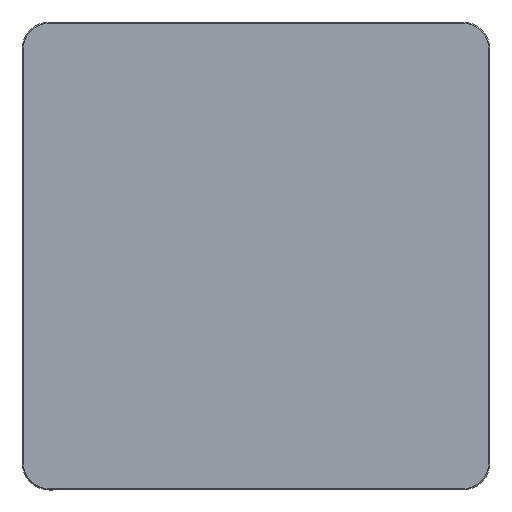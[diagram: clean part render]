
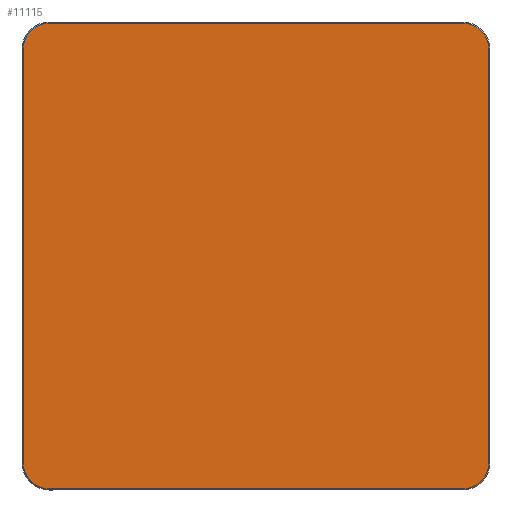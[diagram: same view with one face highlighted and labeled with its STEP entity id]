
A CAD part, top view. The second image highlights one B-rep face of the part: STEP entity #11115.
In plain terms, the highlighted planar face has unit normal (0, 0, 1).
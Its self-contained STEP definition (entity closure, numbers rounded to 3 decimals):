
#11040=CARTESIAN_POINT('',(0.,0.,20.));
#11041=DIRECTION('',(1.,0.,0.));
#11042=DIRECTION('',(0.,0.,1.));
#11043=AXIS2_PLACEMENT_3D('',#11040,#11042,#11041);
#11044=PLANE('',#11043);
#11045=CARTESIAN_POINT('',(-265.,-298.5,20.));
#11046=VERTEX_POINT('',#11045);
#11047=CARTESIAN_POINT('',(265.,-298.5,20.));
#11048=VERTEX_POINT('',#11047);
#11049=CARTESIAN_POINT('',(-265.,-298.5,20.));
#11050=DIRECTION('',(1.,0.,0.));
#11051=VECTOR('',#11050,530.);
#11052=LINE('',#11049,#11051);
#11053=EDGE_CURVE('',#11046,#11048,#11052,.T.);
#11054=ORIENTED_EDGE('E105',*,*,#11053,.T.);
#11055=CARTESIAN_POINT('',(298.5,-265.,20.));
#11056=VERTEX_POINT('',#11055);
#11057=CARTESIAN_POINT('',(265.,-265.,20.));
#11058=DIRECTION('',(0.,-1.,0.));
#11059=DIRECTION('',(0.,0.,1.));
#11060=AXIS2_PLACEMENT_3D('',#11057,#11059,#11058);
#11061=CIRCLE('',#11060,33.5);
#11062=EDGE_CURVE('',#11048,#11056,#11061,.T.);
#11063=ORIENTED_EDGE('E107',*,*,#11062,.T.);
#11064=CARTESIAN_POINT('',(298.5,265.,20.));
#11065=VERTEX_POINT('',#11064);
#11066=CARTESIAN_POINT('',(298.5,-265.,20.));
#11067=DIRECTION('',(0.,1.,0.));
#11068=VECTOR('',#11067,530.);
#11069=LINE('',#11066,#11068);
#11070=EDGE_CURVE('',#11056,#11065,#11069,.T.);
#11071=ORIENTED_EDGE('E109',*,*,#11070,.T.);
#11072=CARTESIAN_POINT('',(265.,298.5,20.));
#11073=VERTEX_POINT('',#11072);
#11074=CARTESIAN_POINT('',(265.,265.,20.));
#11075=DIRECTION('',(1.,0.,0.));
#11076=DIRECTION('',(0.,0.,1.));
#11077=AXIS2_PLACEMENT_3D('',#11074,#11076,#11075);
#11078=CIRCLE('',#11077,33.5);
#11079=EDGE_CURVE('',#11065,#11073,#11078,.T.);
#11080=ORIENTED_EDGE('E111',*,*,#11079,.T.);
#11081=CARTESIAN_POINT('',(-265.,298.5,20.));
#11082=VERTEX_POINT('',#11081);
#11083=CARTESIAN_POINT('',(265.,298.5,20.));
#11084=DIRECTION('',(-1.,0.,0.));
#11085=VECTOR('',#11084,530.);
#11086=LINE('',#11083,#11085);
#11087=EDGE_CURVE('',#11073,#11082,#11086,.T.);
#11088=ORIENTED_EDGE('E113',*,*,#11087,.T.);
#11089=CARTESIAN_POINT('',(-298.5,265.,20.));
#11090=VERTEX_POINT('',#11089);
#11091=CARTESIAN_POINT('',(-265.,265.,20.));
#11092=DIRECTION('',(0.,1.,0.));
#11093=DIRECTION('',(0.,0.,1.));
#11094=AXIS2_PLACEMENT_3D('',#11091,#11093,#11092);
#11095=CIRCLE('',#11094,33.5);
#11096=EDGE_CURVE('',#11082,#11090,#11095,.T.);
#11097=ORIENTED_EDGE('E115',*,*,#11096,.T.);
#11098=CARTESIAN_POINT('',(-298.5,-265.,20.));
#11099=VERTEX_POINT('',#11098);
#11100=CARTESIAN_POINT('',(-298.5,265.,20.));
#11101=DIRECTION('',(0.,-1.,0.));
#11102=VECTOR('',#11101,530.);
#11103=LINE('',#11100,#11102);
#11104=EDGE_CURVE('',#11090,#11099,#11103,.T.);
#11105=ORIENTED_EDGE('E117',*,*,#11104,.T.);
#11106=CARTESIAN_POINT('',(-265.,-265.,20.));
#11107=DIRECTION('',(-1.,0.,0.));
#11108=DIRECTION('',(0.,0.,1.));
#11109=AXIS2_PLACEMENT_3D('',#11106,#11108,#11107);
#11110=CIRCLE('',#11109,33.5);
#11111=EDGE_CURVE('',#11099,#11046,#11110,.T.);
#11112=ORIENTED_EDGE('E119',*,*,#11111,.T.);
#11113=EDGE_LOOP('',(#11054,#11063,#11071,#11080,#11088,#11097,#11105,#11112));
#11114=FACE_OUTER_BOUND('',#11113,.T.);
#11115=ADVANCED_FACE('F2',(#11114),#11044,.T.);
